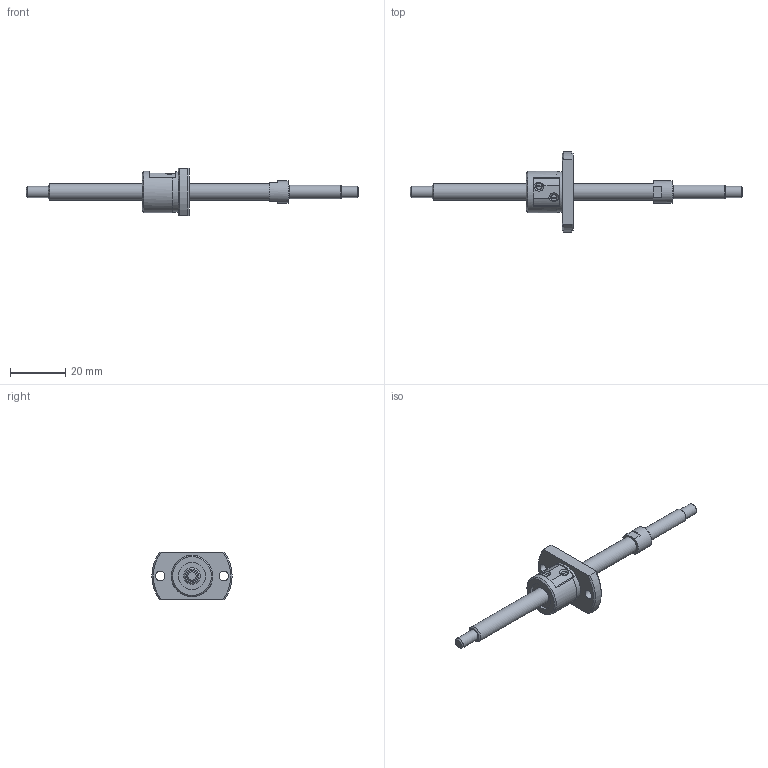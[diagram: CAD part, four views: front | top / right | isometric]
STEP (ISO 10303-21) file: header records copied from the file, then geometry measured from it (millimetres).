
FILE_DESCRIPTION(/* description */ ('STEP AP214'),/* implementation_level */ '2;1');
FILE_NAME(/* name */ 'SG0602-077R120C5C0X(34)',/* time_stamp */ '2026-07-20T20:14:20+02:00',/* author */ ('License CC BY-ND 4.0'),/* organization */ ('CADENAS'),/* preprocessor_version */ 'ST-DEVELOPER v20',/* originating_system */ 'PARTsolutions',/* authorisation */ ' ');
FILE_SCHEMA (('AUTOMOTIVE_DESIGN {1 0 10303 214 3 1 1}'));
Length unit declared in the file: millimetre
Products named in the file (3): SG0602-077R120C5C0X(34); SG0602-77R120C5C_shaft; SG0602 C5_nut
Assembly tree (2 placements, depth 2):
  SG0602-077R120C5C0X(34)
    SG0602-77R120C5C_shaft
    SG0602 C5_nut
Bounding box: 120 x 29 x 17 mm (x, y, z)
Volume: 6556.5 mm3; surface area: 4456.3 mm2
Topology: 2 solids, 2 shells, 74 faces, 179 edges, 118 vertices
Faces by surface type: plane 35, cylinder 24, cone 14, torus 1
Full cylindrical faces by diameter (mm): 3.4 x2, 4 x2, 5 x1, 6 x2, 8 x1, 10 x2, 14.6 x1, 15 x1
Entity records: 2087 total; most frequent: CARTESIAN_POINT 391, DIRECTION 352, ORIENTED_EDGE 292, AXIS2_PLACEMENT_3D 147, EDGE_CURVE 146, EDGE_LOOP 112, FACE_BOUND 112, VERTEX_POINT 108
